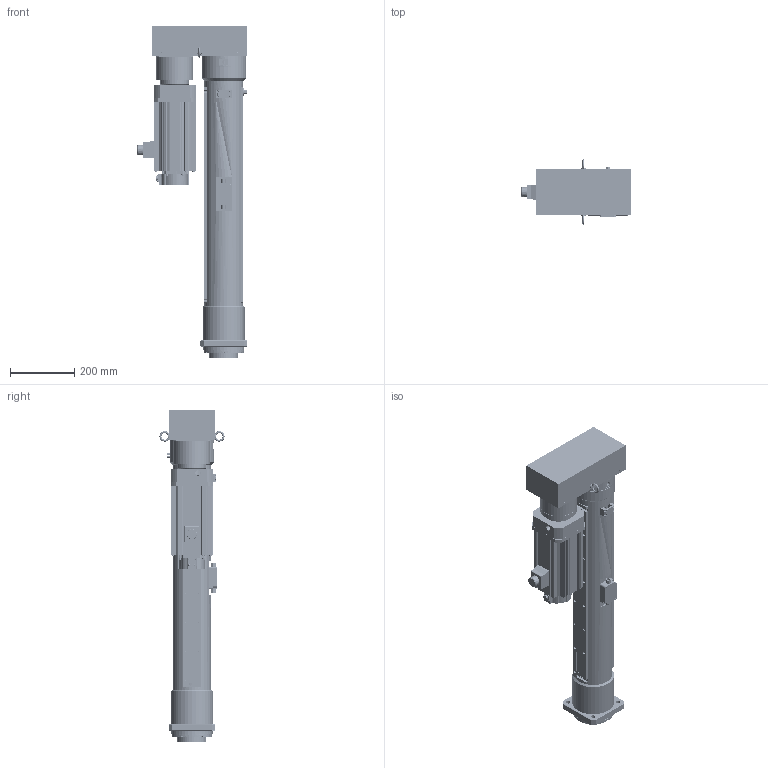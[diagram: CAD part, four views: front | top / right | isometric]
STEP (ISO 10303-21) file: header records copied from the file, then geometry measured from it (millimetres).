
FILE_DESCRIPTION( ('This file contains a STEP AP42 implementation' ,'as created by ZW3D STEP Interface translator.') ,'2;1' );
FILE_NAME( 'OACIS-DC-P060-P070-600-140-A6V200_V20.51.stp' ,'26 428.101911', (''), ('ZWCAD Software Co.'), 'Version 1.0', 'ZW3D to STEP translator', '' );
FILE_SCHEMA(('AUTOMOTIVE_DESIGN { 1 0 10303 214 1 1 1 1 }'));
Length unit declared in the file: millimetre
Products named in the file (1): 0
Bounding box: 342.5 x 202.25 x 1031 mm (x, y, z)
Volume: 16988244 mm3; surface area: 2494884.9 mm2
Topology: 55 solids, 55 shells, 3498 faces, 8957 edges, 5732 vertices
Faces by surface type: cylinder 1755, plane 1251, cone 359, torus 101, bspline 28, sphere 4
Full cylindrical faces by diameter (mm): 1.567 x4, 2 x1, 2.459 x1, 3.3 x100, 4.2 x4, 4.3 x34, 4.5 x14, 4.917 x20, 5 x1, 5.3 x4, 5.5 x4, 6 x8, 6.5 x4, 6.647 x6, 6.8 x41, 7 x4, 8 x36, 8.4 x8, 8.5 x5, 9 x26, 9.5 x4, 9.78 x8, 10 x3, 10.1 x4, 10.106 x1, 10.2 x16, 10.5 x4, 12 x1, 14 x4, 14.8 x1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
Entity records: 130024 total; most frequent: CARTESIAN_POINT 35335, DIRECTION 19797, ORIENTED_EDGE 17686, EDGE_CURVE 8843, AXIS2_PLACEMENT_3D 7887, VERTEX_POINT 5729, CIRCLE 4397, EDGE_LOOP 4180
